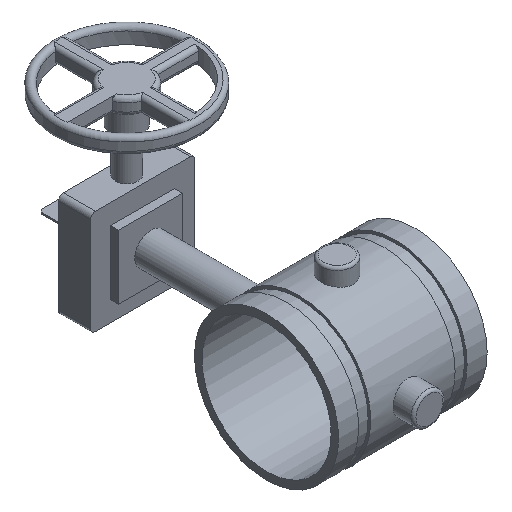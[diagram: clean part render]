
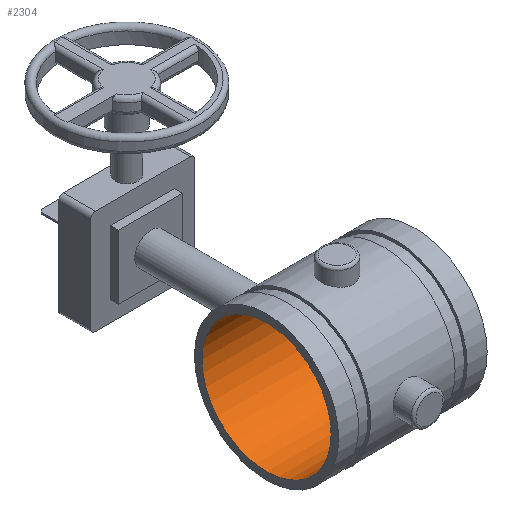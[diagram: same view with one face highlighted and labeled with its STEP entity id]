
A CAD part, isometric view. The second image highlights one B-rep face of the part: STEP entity #2304.
In plain terms, the highlighted cylindrical face has radius 51.13 mm (diameter 102.26 mm), a full revolution.
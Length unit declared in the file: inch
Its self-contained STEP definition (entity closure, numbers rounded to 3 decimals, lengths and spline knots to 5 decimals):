
#80=CYLINDRICAL_SURFACE('',#2525,2.013);
#189=CIRCLE('',#2523,2.013);
#190=CIRCLE('',#2524,2.013);
#191=CIRCLE('',#2526,2.013);
#192=CIRCLE('',#2527,2.013);
#356=FACE_OUTER_BOUND('',#490,.T.);
#490=EDGE_LOOP('',(#1902,#1903,#1904,#1905,#1906,#1907));
#666=LINE('',#4257,#845);
#845=VECTOR('',#3087,2.013);
#1054=VERTEX_POINT('',#4251);
#1055=VERTEX_POINT('',#4252);
#1056=VERTEX_POINT('',#4256);
#1057=VERTEX_POINT('',#4258);
#1352=EDGE_CURVE('',#1054,#1055,#189,.T.);
#1353=EDGE_CURVE('',#1055,#1054,#190,.T.);
#1354=EDGE_CURVE('',#1055,#1056,#666,.T.);
#1355=EDGE_CURVE('',#1057,#1056,#191,.T.);
#1356=EDGE_CURVE('',#1056,#1057,#192,.T.);
#1902=ORIENTED_EDGE('',*,*,#1352,.T.);
#1903=ORIENTED_EDGE('',*,*,#1354,.T.);
#1904=ORIENTED_EDGE('',*,*,#1355,.F.);
#1905=ORIENTED_EDGE('',*,*,#1356,.F.);
#1906=ORIENTED_EDGE('',*,*,#1354,.F.);
#1907=ORIENTED_EDGE('',*,*,#1353,.T.);
#2304=ADVANCED_FACE('',(#356),#80,.F.);
#2523=AXIS2_PLACEMENT_3D('',#4253,#3081,#3082);
#2524=AXIS2_PLACEMENT_3D('',#4254,#3083,#3084);
#2525=AXIS2_PLACEMENT_3D('',#4255,#3085,#3086);
#2526=AXIS2_PLACEMENT_3D('',#4259,#3088,#3089);
#2527=AXIS2_PLACEMENT_3D('',#4260,#3090,#3091);
#3081=DIRECTION('center_axis',(1.,0.,0.));
#3082=DIRECTION('ref_axis',(0.,0.,1.));
#3083=DIRECTION('center_axis',(1.,0.,0.));
#3084=DIRECTION('ref_axis',(0.,0.,1.));
#3085=DIRECTION('center_axis',(1.,0.,0.));
#3086=DIRECTION('ref_axis',(0.,1.,0.));
#3087=DIRECTION('',(-1.,0.,0.));
#3088=DIRECTION('center_axis',(1.,0.,0.));
#3089=DIRECTION('ref_axis',(0.,0.,1.));
#3090=DIRECTION('center_axis',(1.,0.,0.));
#3091=DIRECTION('ref_axis',(0.,0.,1.));
#4251=CARTESIAN_POINT('',(2.315,0.,2.013));
#4252=CARTESIAN_POINT('',(2.315,-2.013,0.));
#4253=CARTESIAN_POINT('Origin',(2.315,0.,0.));
#4254=CARTESIAN_POINT('Origin',(2.315,0.,0.));
#4255=CARTESIAN_POINT('Origin',(0.,0.,
0.));
#4256=CARTESIAN_POINT('',(-2.315,-2.013,0.));
#4257=CARTESIAN_POINT('',(0.,-2.013,0.));
#4258=CARTESIAN_POINT('',(-2.315,2.013,0.));
#4259=CARTESIAN_POINT('Origin',(-2.315,0.,0.));
#4260=CARTESIAN_POINT('Origin',(-2.315,0.,0.));
